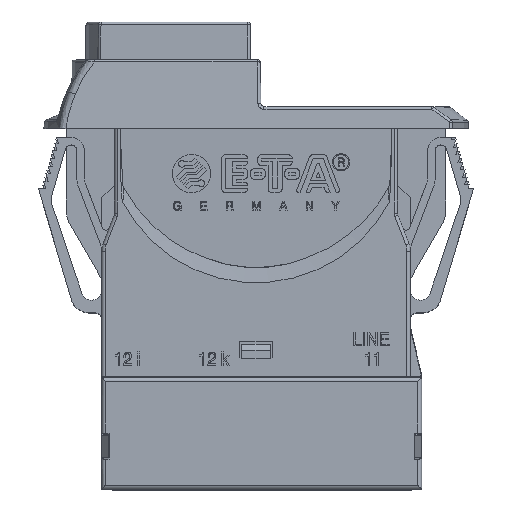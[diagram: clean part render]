
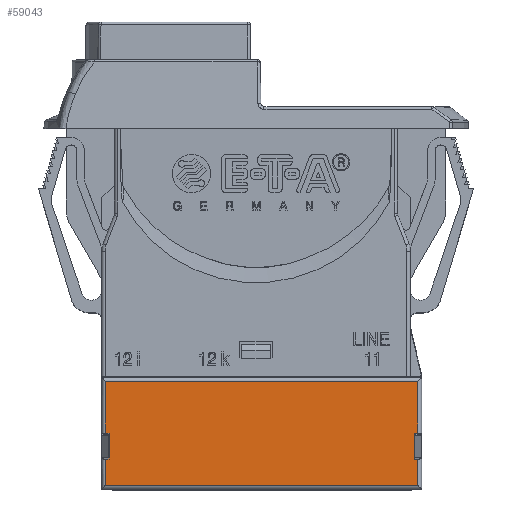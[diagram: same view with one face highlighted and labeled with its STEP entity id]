
A CAD part, top view. The second image highlights one B-rep face of the part: STEP entity #59043.
In plain terms, the highlighted planar face has unit normal (0, 0, 1).
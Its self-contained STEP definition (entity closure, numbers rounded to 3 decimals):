
#7301=CARTESIAN_POINT('',(21.5,-7.483,10.45));
#7331=CARTESIAN_POINT('',(-20.,-7.483,10.45));
#7417=CARTESIAN_POINT('',(21.5,-10.917,10.45));
#7439=CARTESIAN_POINT('',(-20.,-10.917,10.45));
#7453=DIRECTION('',(0.,-1.,0.));
#7454=VECTOR('',#7453,3.483);
#7455=CARTESIAN_POINT('',(-20.,-10.917,10.45));
#7456=LINE('',#7455,#7454);
#7457=DIRECTION('',(-1.,0.,0.));
#7458=VECTOR('',#7457,0.5);
#7459=CARTESIAN_POINT('',(-19.5,-10.917,10.45));
#7460=LINE('',#7459,#7458);
#7461=DIRECTION('',(0.,-1.,0.));
#7462=VECTOR('',#7461,3.435);
#7463=CARTESIAN_POINT('',(-19.5,-7.483,10.45));
#7464=LINE('',#7463,#7462);
#7465=DIRECTION('',(-1.,0.,0.));
#7466=VECTOR('',#7465,0.5);
#7467=CARTESIAN_POINT('',(-19.5,-7.483,10.45));
#7468=LINE('',#7467,#7466);
#7469=DIRECTION('',(0.,-1.,0.));
#7470=VECTOR('',#7469,6.883);
#7471=CARTESIAN_POINT('',(-20.,-0.6,10.45));
#7472=LINE('',#7471,#7470);
#7473=DIRECTION('',(-1.,0.,0.));
#7474=VECTOR('',#7473,41.5);
#7475=CARTESIAN_POINT('',(21.5,-0.6,10.45));
#7476=LINE('',#7475,#7474);
#7477=DIRECTION('',(0.,1.,0.));
#7478=VECTOR('',#7477,6.883);
#7479=CARTESIAN_POINT('',(21.5,-7.483,10.45));
#7480=LINE('',#7479,#7478);
#7481=DIRECTION('',(1.,0.,0.));
#7482=VECTOR('',#7481,0.5);
#7483=CARTESIAN_POINT('',(21.,-7.483,10.45));
#7484=LINE('',#7483,#7482);
#7485=DIRECTION('',(0.,-1.,0.));
#7486=VECTOR('',#7485,3.435);
#7487=CARTESIAN_POINT('',(21.,-7.483,10.45));
#7488=LINE('',#7487,#7486);
#7489=DIRECTION('',(1.,0.,0.));
#7490=VECTOR('',#7489,0.5);
#7491=CARTESIAN_POINT('',(21.,-10.917,10.45));
#7492=LINE('',#7491,#7490);
#7493=DIRECTION('',(0.,1.,0.));
#7494=VECTOR('',#7493,3.483);
#7495=CARTESIAN_POINT('',(21.5,-14.4,10.45));
#7496=LINE('',#7495,#7494);
#7497=DIRECTION('',(1.,0.,0.));
#7498=VECTOR('',#7497,41.5);
#7499=CARTESIAN_POINT('',(-20.,-14.4,10.45));
#7500=LINE('',#7499,#7498);
#31971=CARTESIAN_POINT('',(-20.,-0.6,10.45));
#46983=CARTESIAN_POINT('',(-19.5,-7.483,10.45));
#46984=CARTESIAN_POINT('',(-19.5,-10.917,10.45));
#46985=VERTEX_POINT('',#46983);
#46986=VERTEX_POINT('',#46984);
#46999=CARTESIAN_POINT('',(21.,-7.483,10.45));
#47000=CARTESIAN_POINT('',(21.,-10.917,10.45));
#47001=VERTEX_POINT('',#46999);
#47002=VERTEX_POINT('',#47000);
#47197=VERTEX_POINT('',#31971);
#47199=VERTEX_POINT('',#7439);
#47200=CARTESIAN_POINT('',(-20.,-14.4,10.45));
#47201=VERTEX_POINT('',#47200);
#47206=CARTESIAN_POINT('',(21.5,-14.4,10.45));
#47207=VERTEX_POINT('',#47206);
#47208=VERTEX_POINT('',#7417);
#47212=CARTESIAN_POINT('',(21.5,-0.6,10.45));
#47213=VERTEX_POINT('',#47212);
#47215=VERTEX_POINT('',#7301);
#47216=VERTEX_POINT('',#7331);
#59018=CARTESIAN_POINT('',(0.75,-7.5,10.45));
#59019=DIRECTION('',(0.,0.,1.));
#59020=DIRECTION('',(-1.,0.,0.));
#59021=AXIS2_PLACEMENT_3D('',#59018,#59019,#59020);
#59022=PLANE('',#59021);
#59024=ORIENTED_EDGE('',*,*,#59023,.F.);
#59025=ORIENTED_EDGE('',*,*,#58990,.F.);
#59027=ORIENTED_EDGE('',*,*,#59026,.F.);
#59028=ORIENTED_EDGE('',*,*,#58851,.T.);
#59030=ORIENTED_EDGE('',*,*,#59029,.F.);
#59032=ORIENTED_EDGE('',*,*,#59031,.F.);
#59034=ORIENTED_EDGE('',*,*,#59033,.F.);
#59035=ORIENTED_EDGE('',*,*,#58814,.F.);
#59036=ORIENTED_EDGE('',*,*,#59012,.T.);
#59037=ORIENTED_EDGE('',*,*,#58973,.T.);
#59038=ORIENTED_EDGE('',*,*,#58952,.F.);
#59040=ORIENTED_EDGE('',*,*,#59039,.F.);
#59041=EDGE_LOOP('',(#59024,#59025,#59027,#59028,#59030,#59032,#59034,#59035,
#59036,#59037,#59038,#59040));
#59042=FACE_OUTER_BOUND('',#59041,.F.);
#58814=EDGE_CURVE('',#47001,#47215,#7484,.T.);
#58851=EDGE_CURVE('',#46985,#47216,#7468,.T.);
#58952=EDGE_CURVE('',#47207,#47208,#7496,.T.);
#58973=EDGE_CURVE('',#47002,#47208,#7492,.T.);
#58990=EDGE_CURVE('',#46986,#47199,#7460,.T.);
#59012=EDGE_CURVE('',#47001,#47002,#7488,.T.);
#59023=EDGE_CURVE('',#47199,#47201,#7456,.T.);
#59026=EDGE_CURVE('',#46985,#46986,#7464,.T.);
#59029=EDGE_CURVE('',#47197,#47216,#7472,.T.);
#59031=EDGE_CURVE('',#47213,#47197,#7476,.T.);
#59033=EDGE_CURVE('',#47215,#47213,#7480,.T.);
#59039=EDGE_CURVE('',#47201,#47207,#7500,.T.);
#59043=ADVANCED_FACE('',(#59042),#59022,.T.);
